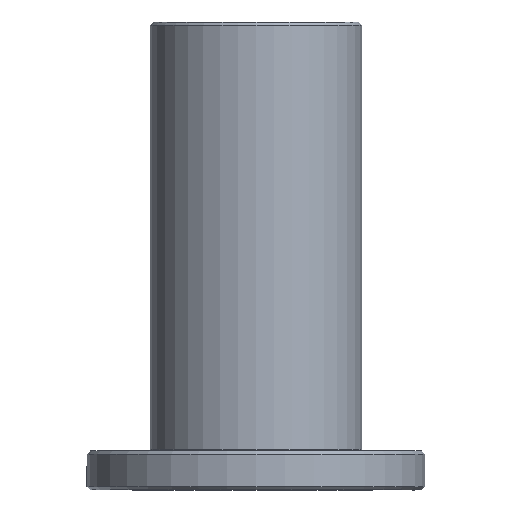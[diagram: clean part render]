
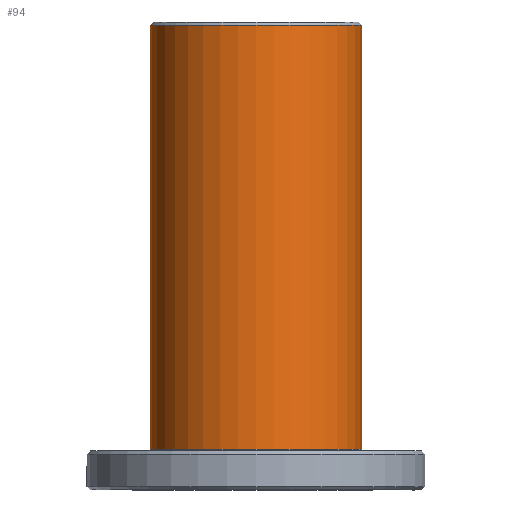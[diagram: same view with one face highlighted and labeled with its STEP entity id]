
A CAD part, front view. The second image highlights one B-rep face of the part: STEP entity #94.
In plain terms, the highlighted cylindrical face has radius 32.5 mm (diameter 65 mm), a full revolution.
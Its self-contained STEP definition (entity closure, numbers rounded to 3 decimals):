
#94=ADVANCED_FACE('',(#182,#183),#184,.T.);
#182=FACE_OUTER_BOUND('',#338,.T.);
#183=FACE_OUTER_BOUND('',#339,.T.);
#184=CYLINDRICAL_SURFACE('',#340,32.5);
#338=EDGE_LOOP('',(#568));
#339=EDGE_LOOP('',(#569));
#340=AXIS2_PLACEMENT_3D('',#570,#571,#572);
#568=ORIENTED_EDGE('',*,*,#860,.F.);
#569=ORIENTED_EDGE('',*,*,#861,.T.);
#570=CARTESIAN_POINT('',(0.,0.0,77.75));
#571=DIRECTION('',(0.,-0.0,1.0));
#572=DIRECTION('',(0.0,1.0,0.0));
#860=EDGE_CURVE('',#1004,#1004,#1005,.T.);
#861=EDGE_CURVE('',#1006,#1006,#1007,.T.);
#1004=VERTEX_POINT('',#1195);
#1005=CIRCLE('',#1196,32.5);
#1006=VERTEX_POINT('',#1197);
#1007=CIRCLE('',#1198,32.5);
#1195=CARTESIAN_POINT('',(0.,32.5,143.0));
#1196=AXIS2_PLACEMENT_3D('',#1412,#1413,#1414);
#1197=CARTESIAN_POINT('',(0.,32.5,12.5));
#1198=AXIS2_PLACEMENT_3D('',#1415,#1416,#1417);
#1412=CARTESIAN_POINT('',(0.,0.0,143.0));
#1413=DIRECTION('',(0.,-0.0,1.0));
#1414=DIRECTION('',(0.0,1.0,0.0));
#1415=CARTESIAN_POINT('',(0.,0.0,12.5));
#1416=DIRECTION('',(0.,-0.0,1.0));
#1417=DIRECTION('',(0.0,1.0,0.0));
